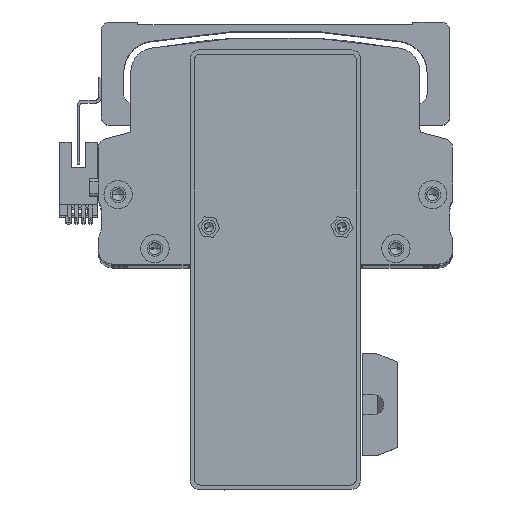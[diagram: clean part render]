
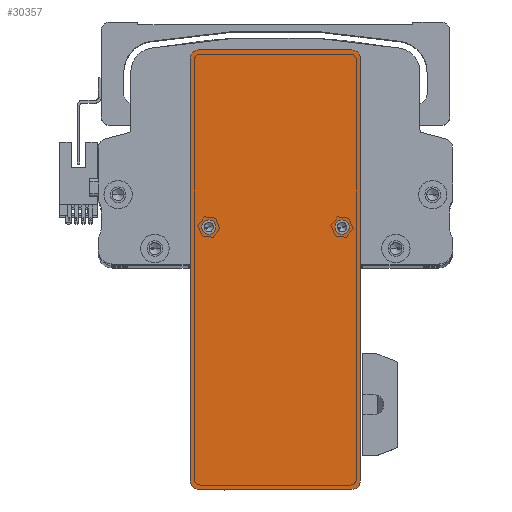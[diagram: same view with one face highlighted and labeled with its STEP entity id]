
A CAD part, top view. The second image highlights one B-rep face of the part: STEP entity #30357.
In plain terms, the highlighted planar face has unit normal (0, 0, 1) as drawn and (0, 0, -1) by its records, which use the part's own axes.
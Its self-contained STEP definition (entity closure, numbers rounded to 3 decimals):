
#1101 = EDGE_LOOP ( 'NONE', ( #49621, #20253, #46242, #47211, #51087, #39998, #77273, #35971 ) ) ;
#1458 = DIRECTION ( 'NONE',  ( 1., 0., 0. ) ) ;
#2246 = DIRECTION ( 'NONE',  ( 0., 0., -1. ) ) ;
#3011 = DIRECTION ( 'NONE',  ( -1., 0., 0. ) ) ;
#3208 = EDGE_CURVE ( 'NONE', #56056, #62740, #66477, .T. ) ;
#3987 = CARTESIAN_POINT ( 'NONE',  ( 0., 0., 0. ) ) ;
#4567 = ORIENTED_EDGE ( 'NONE', *, *, #58034, .F. ) ;
#6585 = AXIS2_PLACEMENT_3D ( 'NONE', #12633, #56076, #18871 ) ;
#7440 = DIRECTION ( 'NONE',  ( 0., 0., -1. ) ) ;
#7509 = DIRECTION ( 'NONE',  ( 0., 1., 0. ) ) ;
#7624 = CIRCLE ( 'NONE', #6585, 2.5 ) ;
#10213 = DIRECTION ( 'NONE',  ( 1., 0., 0. ) ) ;
#11628 = CIRCLE ( 'NONE', #51628, 3. ) ;
#12207 = VECTOR ( 'NONE', #7509, 1000. ) ;
#12363 = CARTESIAN_POINT ( 'NONE',  ( 77.5, 27., 0. ) ) ;
#12521 = EDGE_CURVE ( 'NONE', #73460, #39203, #11628, .T. ) ;
#12633 = CARTESIAN_POINT ( 'NONE',  ( 15., 23.5, 0. ) ) ;
#13056 = CIRCLE ( 'NONE', #45554, 3. ) ;
#14595 = VECTOR ( 'NONE', #66984, 1000. ) ;
#16180 = PLANE ( 'NONE',  #76227 ) ;
#16424 = FACE_BOUND ( 'NONE', #60839, .T. ) ;
#17579 = VERTEX_POINT ( 'NONE', #28537 ) ;
#18404 = DIRECTION ( 'NONE',  ( 0., 0., -1. ) ) ;
#18740 = CARTESIAN_POINT ( 'NONE',  ( 74.5, 30., 0. ) ) ;
#18871 = DIRECTION ( 'NONE',  ( -1., 0., 0. ) ) ;
#19138 = VECTOR ( 'NONE', #1458, 1000. ) ;
#20253 = ORIENTED_EDGE ( 'NONE', *, *, #55669, .T. ) ;
#20354 = EDGE_CURVE ( 'NONE', #46974, #39203, #47667, .T. ) ;
#20894 = EDGE_CURVE ( 'NONE', #17579, #23841, #65888, .T. ) ;
#21637 = CIRCLE ( 'NONE', #50232, 2.5 ) ;
#21876 = CARTESIAN_POINT ( 'NONE',  ( 12.5, 23.5, 0. ) ) ;
#22636 = EDGE_CURVE ( 'NONE', #46974, #62740, #70763, .T. ) ;
#23108 = CARTESIAN_POINT ( 'NONE',  ( 17.5, 23.5, 0. ) ) ;
#23772 = DIRECTION ( 'NONE',  ( 0., 0., -1. ) ) ;
#23800 = EDGE_CURVE ( 'NONE', #37281, #76464, #28721, .T. ) ;
#23841 = VERTEX_POINT ( 'NONE', #57722 ) ;
#24389 = EDGE_CURVE ( 'NONE', #56056, #76464, #13056, .T. ) ;
#24881 = CARTESIAN_POINT ( 'NONE',  ( -74.5, 30., 0. ) ) ;
#26534 = VERTEX_POINT ( 'NONE', #23108 ) ;
#27433 = AXIS2_PLACEMENT_3D ( 'NONE', #55628, #18404, #61860 ) ;
#28002 = DIRECTION ( 'NONE',  ( 0., 0., -1. ) ) ;
#28537 = CARTESIAN_POINT ( 'NONE',  ( 17.5, -23.5, 0. ) ) ;
#28721 = LINE ( 'NONE', #32202, #12207 ) ;
#29128 = DIRECTION ( 'NONE',  ( -1., 0., 0. ) ) ;
#30357 = ADVANCED_FACE ( 'NONE', ( #16424, #31015, #47542 ), #16180, .F. ) ;
#30588 = EDGE_CURVE ( 'NONE', #26534, #36036, #7624, .T. ) ;
#31015 = FACE_BOUND ( 'NONE', #36448, .T. ) ;
#31852 = CARTESIAN_POINT ( 'NONE',  ( 74.5, 27., 0. ) ) ;
#32202 = CARTESIAN_POINT ( 'NONE',  ( 77.5, -30., 0. ) ) ;
#34292 = EDGE_CURVE ( 'NONE', #73460, #70381, #35625, .T. ) ;
#34965 = CIRCLE ( 'NONE', #50587, 2.5 ) ;
#35067 = CARTESIAN_POINT ( 'NONE',  ( 77.5, 30., 0. ) ) ;
#35625 = LINE ( 'NONE', #38680, #19138 ) ;
#35971 = ORIENTED_EDGE ( 'NONE', *, *, #24389, .T. ) ;
#36036 = VERTEX_POINT ( 'NONE', #21876 ) ;
#36448 = EDGE_LOOP ( 'NONE', ( #4567, #54112 ) ) ;
#37281 = VERTEX_POINT ( 'NONE', #53003 ) ;
#38080 = DIRECTION ( 'NONE',  ( 1., 0., 0. ) ) ;
#38680 = CARTESIAN_POINT ( 'NONE',  ( 77.5, -30., 0. ) ) ;
#39203 = VERTEX_POINT ( 'NONE', #62412 ) ;
#39451 = CARTESIAN_POINT ( 'NONE',  ( 15., 23.5, 0. ) ) ;
#39658 = CIRCLE ( 'NONE', #57075, 3. ) ;
#39998 = ORIENTED_EDGE ( 'NONE', *, *, #22636, .T. ) ;
#40204 = DIRECTION ( 'NONE',  ( 0., 0., -1. ) ) ;
#42079 = ORIENTED_EDGE ( 'NONE', *, *, #30588, .F. ) ;
#44606 = CARTESIAN_POINT ( 'NONE',  ( 74.5, -27., 0. ) ) ;
#45554 = AXIS2_PLACEMENT_3D ( 'NONE', #31852, #75237, #38080 ) ;
#45726 = DIRECTION ( 'NONE',  ( -1., 0., 0. ) ) ;
#45832 = CARTESIAN_POINT ( 'NONE',  ( 74.5, -30., 0. ) ) ;
#46242 = ORIENTED_EDGE ( 'NONE', *, *, #34292, .F. ) ;
#46974 = VERTEX_POINT ( 'NONE', #69593 ) ;
#47211 = ORIENTED_EDGE ( 'NONE', *, *, #12521, .T. ) ;
#47448 = DIRECTION ( 'NONE',  ( 0., 0., 1. ) ) ;
#47542 = FACE_OUTER_BOUND ( 'NONE', #1101, .T. ) ;
#47667 = LINE ( 'NONE', #48581, #14595 ) ;
#48581 = CARTESIAN_POINT ( 'NONE',  ( -77.5, -30., 0. ) ) ;
#48665 = AXIS2_PLACEMENT_3D ( 'NONE', #60952, #23772, #67155 ) ;
#49621 = ORIENTED_EDGE ( 'NONE', *, *, #23800, .F. ) ;
#50040 = VECTOR ( 'NONE', #29128, 1000. ) ;
#50232 = AXIS2_PLACEMENT_3D ( 'NONE', #39451, #2246, #45726 ) ;
#50587 = AXIS2_PLACEMENT_3D ( 'NONE', #77401, #40204, #3011 ) ;
#50874 = DIRECTION ( 'NONE',  ( 1., 0., 0. ) ) ;
#51087 = ORIENTED_EDGE ( 'NONE', *, *, #20354, .F. ) ;
#51628 = AXIS2_PLACEMENT_3D ( 'NONE', #65134, #28002, #71432 ) ;
#53003 = CARTESIAN_POINT ( 'NONE',  ( 77.5, -27., 0. ) ) ;
#54112 = ORIENTED_EDGE ( 'NONE', *, *, #20894, .F. ) ;
#55628 = CARTESIAN_POINT ( 'NONE',  ( -74.5, 27., 0. ) ) ;
#55669 = EDGE_CURVE ( 'NONE', #37281, #70381, #39658, .T. ) ;
#56056 = VERTEX_POINT ( 'NONE', #18740 ) ;
#56076 = DIRECTION ( 'NONE',  ( 0., 0., -1. ) ) ;
#57075 = AXIS2_PLACEMENT_3D ( 'NONE', #44606, #7440, #50874 ) ;
#57722 = CARTESIAN_POINT ( 'NONE',  ( 12.5, -23.5, 0. ) ) ;
#58034 = EDGE_CURVE ( 'NONE', #23841, #17579, #34965, .T. ) ;
#59712 = ORIENTED_EDGE ( 'NONE', *, *, #77056, .F. ) ;
#60839 = EDGE_LOOP ( 'NONE', ( #59712, #42079 ) ) ;
#60952 = CARTESIAN_POINT ( 'NONE',  ( 15., -23.5, 0. ) ) ;
#61860 = DIRECTION ( 'NONE',  ( 1., 0., 0. ) ) ;
#62412 = CARTESIAN_POINT ( 'NONE',  ( -77.5, -27., 0. ) ) ;
#62740 = VERTEX_POINT ( 'NONE', #24881 ) ;
#65134 = CARTESIAN_POINT ( 'NONE',  ( -74.5, -27., 0. ) ) ;
#65888 = CIRCLE ( 'NONE', #48665, 2.5 ) ;
#66477 = LINE ( 'NONE', #35067, #50040 ) ;
#66984 = DIRECTION ( 'NONE',  ( 0., -1., 0. ) ) ;
#67155 = DIRECTION ( 'NONE',  ( -1., 0., 0. ) ) ;
#69593 = CARTESIAN_POINT ( 'NONE',  ( -77.5, 27., 0. ) ) ;
#70381 = VERTEX_POINT ( 'NONE', #45832 ) ;
#70763 = CIRCLE ( 'NONE', #27433, 3. ) ;
#71432 = DIRECTION ( 'NONE',  ( 1., 0., 0. ) ) ;
#73460 = VERTEX_POINT ( 'NONE', #76787 ) ;
#75237 = DIRECTION ( 'NONE',  ( 0., 0., -1. ) ) ;
#76227 = AXIS2_PLACEMENT_3D ( 'NONE', #3987, #47448, #10213 ) ;
#76464 = VERTEX_POINT ( 'NONE', #12363 ) ;
#76787 = CARTESIAN_POINT ( 'NONE',  ( -74.5, -30., 0. ) ) ;
#77056 = EDGE_CURVE ( 'NONE', #36036, #26534, #21637, .T. ) ;
#77273 = ORIENTED_EDGE ( 'NONE', *, *, #3208, .F. ) ;
#77401 = CARTESIAN_POINT ( 'NONE',  ( 15., -23.5, 0. ) ) ;
